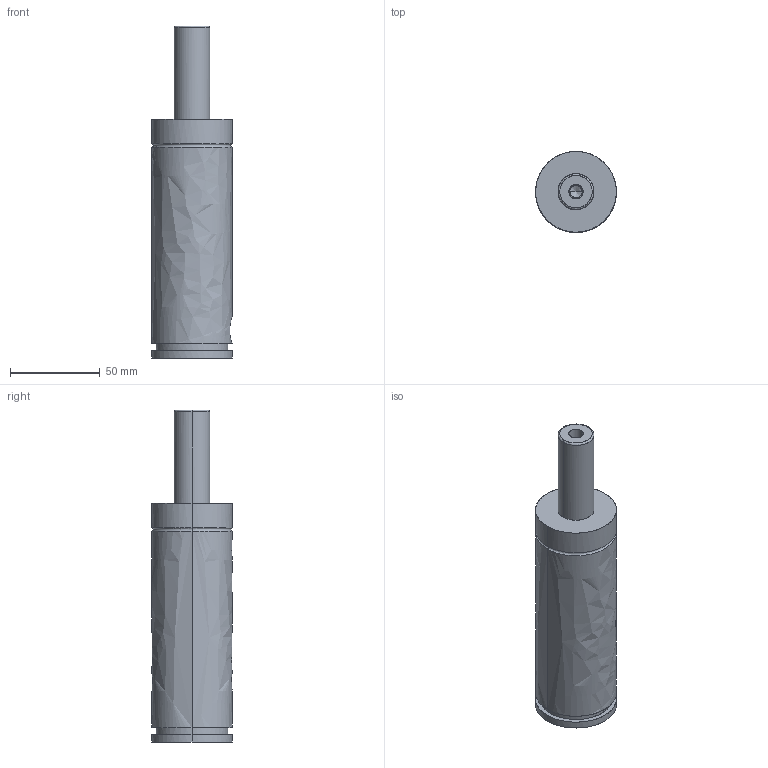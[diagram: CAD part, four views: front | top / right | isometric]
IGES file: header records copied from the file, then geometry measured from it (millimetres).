
Global section: file name: E:\UnigraphicsGraphicData\MISUMI_PRESS-PARTS\IGES\3d_gse45-50_03887_r00.igs; native system: NX V5.0; preprocessor: UGS NX IGES V5.0; author: MISUMI; date: 20110105.160758; units: millimetre
Bounding box: 45 x 45 x 185 mm (x, y, z)
Surface area: 27347.9 mm2 (no closed solid volume)
Topology: 0 solids, 0 shells, 57 faces, 450 edges, 448 vertices
Faces by surface type: bspline 57
